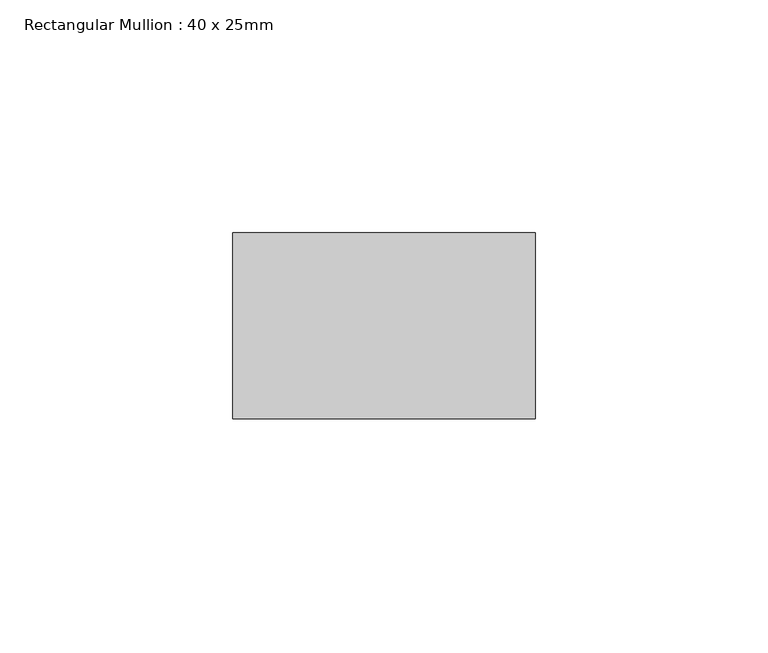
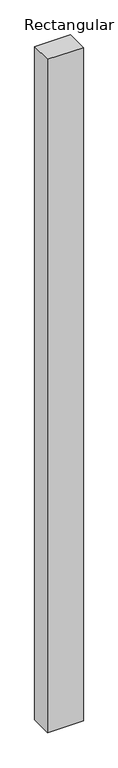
"""IFC4 building model written with IfcOpenShell, lengths in millimetres: member geometry, Rectangular Mullion : 40 x 25mm."""

from ifc_helpers import new_model, si_unit, frame, origin, place, context, project, spatial, polyline, outline, extrude, source, transform, mapped, element, save


def rectangular_mullion_40_x_25mm_36c381a1(model_context):
    return source(origin(), model_context, "Body", "SweptSolid", [
        extrude(outline(polyline([(40.0, -20.0), (40.0, -60.0), (-25.0, -60.0), (-25.0, -20.0), (40.0, -20.0)])), frame((0.0, 0.0, -1290.0), z_axis=(0.0, 0.0, 1.0), x_axis=(1.0, 0.0, 0.0)), (0.0, 0.0, 1.0), 1290.0),
    ])


if __name__ == "__main__":
    model = new_model("IFC4")
    model_context = context("Model", 3, world=origin())
    ifc_project = project(units=[si_unit("LENGTHUNIT", "METRE", prefix="MILLI")], contexts=[model_context])
    site = spatial("IfcSite", under=ifc_project)
    building = spatial("IfcBuilding", under=site)
    placement = place(None, origin())
    rectangular_mullion_40_x_25mm_shape = rectangular_mullion_40_x_25mm_36c381a1(model_context)
    element("IfcMember", 1, ObjectType="Rectangular Mullion : 40 x 25mm", at=placement, inside=building, context=model_context, shape_type="MappedRepresentation", body=[
        mapped(rectangular_mullion_40_x_25mm_shape, transform((0.0, 0.0, 0.0), x_axis=(1.0, 0.0, 0.0), y_axis=(0.0, 1.0, 0.0), z_axis=(0.0, 0.0, 1.0))),
    ])
    save(model, "model.ifc")
